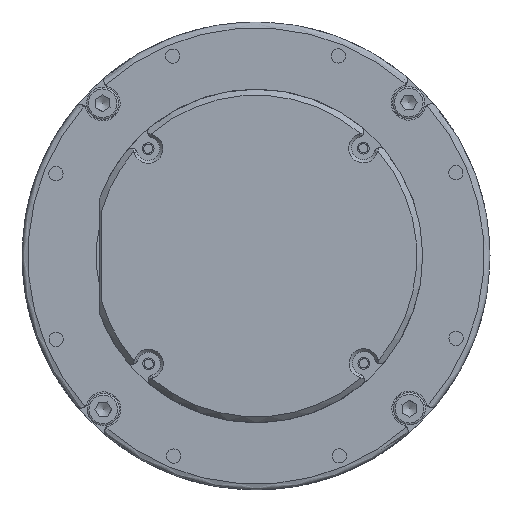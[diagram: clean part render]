
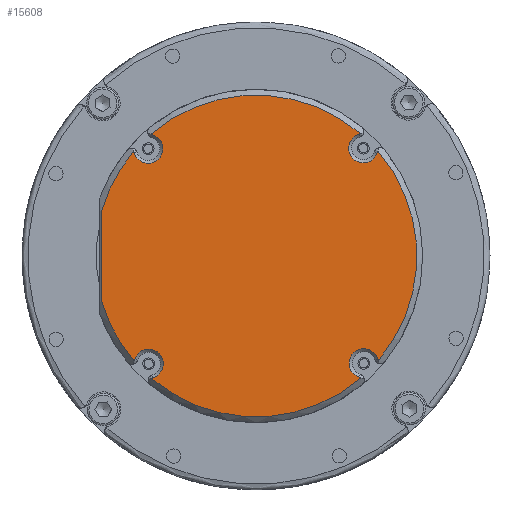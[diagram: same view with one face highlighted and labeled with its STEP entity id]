
A CAD part, left-side view. The second image highlights one B-rep face of the part: STEP entity #15608.
In plain terms, the highlighted planar face has unit normal (-1, 0, 0).
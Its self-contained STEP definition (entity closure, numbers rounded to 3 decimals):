
#656=LINE('',#25182,#1814);
#1814=VECTOR('',#19589,1000.);
#3306=FACE_OUTER_BOUND('',#4275,.T.);
#4275=EDGE_LOOP('',(#11261,#11262,#11263,#11264,#11265,#11266,#11267,#11268,
#11269,#11270,#11271,#11272,#11273,#11274,#11275,#11276,#11277,#11278));
#5239=CIRCLE('',#16713,2.5);
#5241=CIRCLE('',#16716,2.5);
#5244=CIRCLE('',#16721,27.5);
#5273=CIRCLE('',#16760,27.5);
#5274=CIRCLE('',#16761,27.5);
#5275=CIRCLE('',#16762,0.5);
#5276=CIRCLE('',#16763,2.5);
#5277=CIRCLE('',#16764,0.5);
#5278=CIRCLE('',#16765,27.5);
#5279=CIRCLE('',#16766,0.5);
#5280=CIRCLE('',#16767,0.5);
#5281=CIRCLE('',#16768,0.5);
#5282=CIRCLE('',#16769,0.5);
#5283=CIRCLE('',#16770,27.5);
#5284=CIRCLE('',#16771,0.5);
#5285=CIRCLE('',#16772,2.5);
#5286=CIRCLE('',#16773,0.5);
#6578=VERTEX_POINT('',#24993);
#6579=VERTEX_POINT('',#24995);
#6582=VERTEX_POINT('',#25002);
#6583=VERTEX_POINT('',#25004);
#6588=VERTEX_POINT('',#25017);
#6589=VERTEX_POINT('',#25018);
#6636=VERTEX_POINT('',#25178);
#6637=VERTEX_POINT('',#25179);
#6638=VERTEX_POINT('',#25181);
#6639=VERTEX_POINT('',#25183);
#6640=VERTEX_POINT('',#25185);
#6641=VERTEX_POINT('',#25187);
#6642=VERTEX_POINT('',#25189);
#6643=VERTEX_POINT('',#25191);
#6644=VERTEX_POINT('',#25196);
#6645=VERTEX_POINT('',#25198);
#6646=VERTEX_POINT('',#25200);
#6647=VERTEX_POINT('',#25202);
#8325=EDGE_CURVE('',#6579,#6578,#5239,.T.);
#8329=EDGE_CURVE('',#6583,#6582,#5241,.T.);
#8335=EDGE_CURVE('',#6588,#6589,#5244,.T.);
#8392=EDGE_CURVE('',#6636,#6637,#5273,.T.);
#8393=EDGE_CURVE('',#6637,#6638,#656,.T.);
#8394=EDGE_CURVE('',#6638,#6639,#5274,.T.);
#8395=EDGE_CURVE('',#6639,#6640,#5275,.T.);
#8396=EDGE_CURVE('',#6640,#6641,#5276,.T.);
#8397=EDGE_CURVE('',#6641,#6642,#5277,.T.);
#8398=EDGE_CURVE('',#6642,#6643,#5278,.T.);
#8399=EDGE_CURVE('',#6643,#6583,#5279,.T.);
#8400=EDGE_CURVE('',#6582,#6588,#5280,.T.);
#8401=EDGE_CURVE('',#6589,#6579,#5281,.T.);
#8402=EDGE_CURVE('',#6578,#6644,#5282,.T.);
#8403=EDGE_CURVE('',#6644,#6645,#5283,.T.);
#8404=EDGE_CURVE('',#6645,#6646,#5284,.T.);
#8405=EDGE_CURVE('',#6646,#6647,#5285,.T.);
#8406=EDGE_CURVE('',#6647,#6636,#5286,.T.);
#11261=ORIENTED_EDGE('',*,*,#8392,.T.);
#11262=ORIENTED_EDGE('',*,*,#8393,.T.);
#11263=ORIENTED_EDGE('',*,*,#8394,.T.);
#11264=ORIENTED_EDGE('',*,*,#8395,.T.);
#11265=ORIENTED_EDGE('',*,*,#8396,.T.);
#11266=ORIENTED_EDGE('',*,*,#8397,.T.);
#11267=ORIENTED_EDGE('',*,*,#8398,.T.);
#11268=ORIENTED_EDGE('',*,*,#8399,.T.);
#11269=ORIENTED_EDGE('',*,*,#8329,.T.);
#11270=ORIENTED_EDGE('',*,*,#8400,.T.);
#11271=ORIENTED_EDGE('',*,*,#8335,.T.);
#11272=ORIENTED_EDGE('',*,*,#8401,.T.);
#11273=ORIENTED_EDGE('',*,*,#8325,.T.);
#11274=ORIENTED_EDGE('',*,*,#8402,.T.);
#11275=ORIENTED_EDGE('',*,*,#8403,.T.);
#11276=ORIENTED_EDGE('',*,*,#8404,.T.);
#11277=ORIENTED_EDGE('',*,*,#8405,.T.);
#11278=ORIENTED_EDGE('',*,*,#8406,.T.);
#15126=PLANE('',#16759);
#15608=ADVANCED_FACE('',(#3306),#15126,.T.);
#16713=AXIS2_PLACEMENT_3D('',#24996,#19466,#19467);
#16716=AXIS2_PLACEMENT_3D('',#25005,#19474,#19475);
#16721=AXIS2_PLACEMENT_3D('',#25019,#19487,#19488);
#16759=AXIS2_PLACEMENT_3D('',#25177,#19585,#19586);
#16760=AXIS2_PLACEMENT_3D('',#25180,#19587,#19588);
#16761=AXIS2_PLACEMENT_3D('',#25184,#19590,#19591);
#16762=AXIS2_PLACEMENT_3D('',#25186,#19592,#19593);
#16763=AXIS2_PLACEMENT_3D('',#25188,#19594,#19595);
#16764=AXIS2_PLACEMENT_3D('',#25190,#19596,#19597);
#16765=AXIS2_PLACEMENT_3D('',#25192,#19598,#19599);
#16766=AXIS2_PLACEMENT_3D('',#25193,#19600,#19601);
#16767=AXIS2_PLACEMENT_3D('',#25194,#19602,#19603);
#16768=AXIS2_PLACEMENT_3D('',#25195,#19604,#19605);
#16769=AXIS2_PLACEMENT_3D('',#25197,#19606,#19607);
#16770=AXIS2_PLACEMENT_3D('',#25199,#19608,#19609);
#16771=AXIS2_PLACEMENT_3D('',#25201,#19610,#19611);
#16772=AXIS2_PLACEMENT_3D('',#25203,#19612,#19613);
#16773=AXIS2_PLACEMENT_3D('',#25204,#19614,#19615);
#19466=DIRECTION('center_axis',(1.,0.,0.));
#19467=DIRECTION('ref_axis',(0.,1.,-0.002));
#19474=DIRECTION('center_axis',(1.,0.,0.));
#19475=DIRECTION('ref_axis',(0.,1.,-0.002));
#19487=DIRECTION('center_axis',(-1.,0.,0.));
#19488=DIRECTION('ref_axis',(0.,-1.,0.002));
#19585=DIRECTION('center_axis',(-1.,0.,0.));
#19586=DIRECTION('ref_axis',(0.,1.,-0.002));
#19587=DIRECTION('center_axis',(-1.,0.,0.));
#19588=DIRECTION('ref_axis',(0.,-1.,0.002));
#19589=DIRECTION('',(0.,-0.002,-1.));
#19590=DIRECTION('center_axis',(-1.,0.,0.));
#19591=DIRECTION('ref_axis',(0.,-1.,0.002));
#19592=DIRECTION('center_axis',(-1.,0.,0.));
#19593=DIRECTION('ref_axis',(0.,1.,-0.002));
#19594=DIRECTION('center_axis',(1.,0.,0.));
#19595=DIRECTION('ref_axis',(0.,1.,-0.002));
#19596=DIRECTION('center_axis',(-1.,0.,0.));
#19597=DIRECTION('ref_axis',(0.,1.,-0.002));
#19598=DIRECTION('center_axis',(-1.,0.,0.));
#19599=DIRECTION('ref_axis',(0.,-1.,0.002));
#19600=DIRECTION('center_axis',(-1.,0.,0.));
#19601=DIRECTION('ref_axis',(0.,1.,-0.002));
#19602=DIRECTION('center_axis',(-1.,0.,0.));
#19603=DIRECTION('ref_axis',(0.,1.,-0.002));
#19604=DIRECTION('center_axis',(-1.,0.,0.));
#19605=DIRECTION('ref_axis',(0.,1.,-0.002));
#19606=DIRECTION('center_axis',(-1.,0.,0.));
#19607=DIRECTION('ref_axis',(0.,1.,-0.002));
#19608=DIRECTION('center_axis',(-1.,0.,0.));
#19609=DIRECTION('ref_axis',(0.,-1.,0.002));
#19610=DIRECTION('center_axis',(-1.,0.,0.));
#19611=DIRECTION('ref_axis',(0.,1.,-0.002));
#19612=DIRECTION('center_axis',(1.,0.,0.));
#19613=DIRECTION('ref_axis',(0.,1.,-0.002));
#19614=DIRECTION('center_axis',(-1.,0.,0.));
#19615=DIRECTION('ref_axis',(0.,1.,-0.002));
#24993=CARTESIAN_POINT('',(-10.5,-17.572,20.805));
#24995=CARTESIAN_POINT('',(-10.5,-20.725,17.667));
#24996=CARTESIAN_POINT('Origin',(-10.5,-18.343,18.427));
#25002=CARTESIAN_POINT('',(-10.5,-20.805,-17.572));
#25004=CARTESIAN_POINT('',(-10.5,-17.667,-20.725));
#25005=CARTESIAN_POINT('Origin',(-10.5,-18.427,-18.343));
#25017=CARTESIAN_POINT('',(-10.5,-20.96,-17.802));
#25018=CARTESIAN_POINT('',(-10.5,-20.879,17.897));
#25019=CARTESIAN_POINT('Origin',(-10.5,0.,
0.));
#25177=CARTESIAN_POINT('Origin',(-10.5,-0.063,
-27.5));
#25178=CARTESIAN_POINT('',(-10.5,20.96,17.802));
#25179=CARTESIAN_POINT('',(-10.5,26.417,7.64));
#25180=CARTESIAN_POINT('Origin',(-10.5,0.,
0.));
#25181=CARTESIAN_POINT('',(-10.5,26.382,-7.76));
#25182=CARTESIAN_POINT('',(-10.5,26.385,-6.645));
#25183=CARTESIAN_POINT('',(-10.5,20.879,-17.897));
#25184=CARTESIAN_POINT('Origin',(-10.5,0.,
0.));
#25185=CARTESIAN_POINT('',(-10.5,20.725,-17.667));
#25186=CARTESIAN_POINT('Origin',(-10.5,21.201,-17.515));
#25187=CARTESIAN_POINT('',(-10.5,17.572,-20.805));
#25188=CARTESIAN_POINT('Origin',(-10.5,18.343,-18.427));
#25189=CARTESIAN_POINT('',(-10.5,17.802,-20.96));
#25190=CARTESIAN_POINT('Origin',(-10.5,17.418,-21.28));
#25191=CARTESIAN_POINT('',(-10.5,-17.897,-20.879));
#25192=CARTESIAN_POINT('Origin',(-10.5,0.,
0.));
#25193=CARTESIAN_POINT('Origin',(-10.5,-17.515,-21.201));
#25194=CARTESIAN_POINT('Origin',(-10.5,-21.28,-17.418));
#25195=CARTESIAN_POINT('Origin',(-10.5,-21.201,17.515));
#25196=CARTESIAN_POINT('',(-10.5,-17.802,20.96));
#25197=CARTESIAN_POINT('Origin',(-10.5,-17.418,21.28));
#25198=CARTESIAN_POINT('',(-10.5,17.897,20.879));
#25199=CARTESIAN_POINT('Origin',(-10.5,0.,
0.));
#25200=CARTESIAN_POINT('',(-10.5,17.667,20.725));
#25201=CARTESIAN_POINT('Origin',(-10.5,17.515,21.201));
#25202=CARTESIAN_POINT('',(-10.5,20.805,17.572));
#25203=CARTESIAN_POINT('Origin',(-10.5,18.427,18.343));
#25204=CARTESIAN_POINT('Origin',(-10.5,21.28,17.418));
